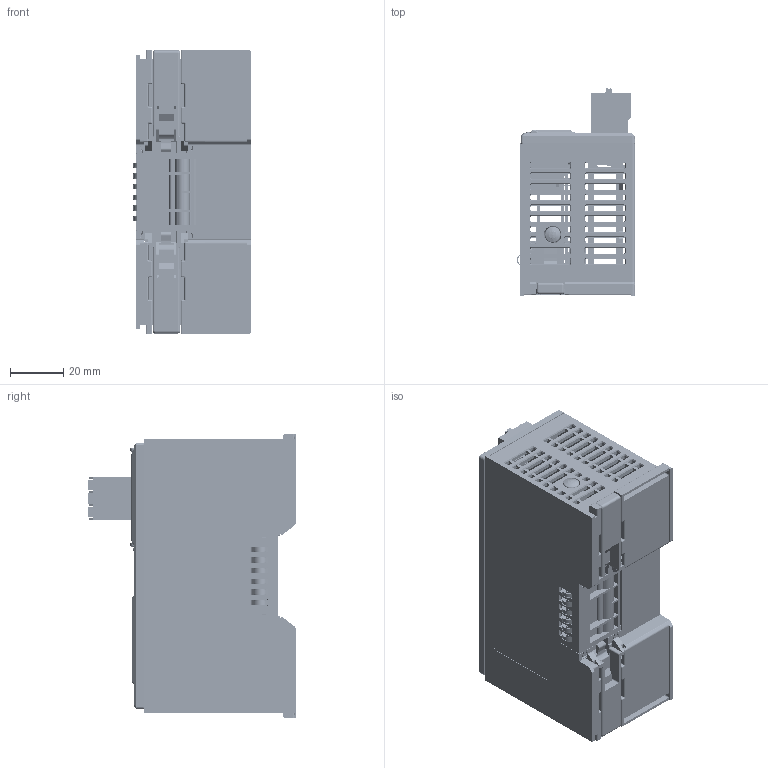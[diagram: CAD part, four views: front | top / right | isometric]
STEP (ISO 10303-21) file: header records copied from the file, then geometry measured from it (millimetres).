
FILE_DESCRIPTION((''),'2;1');
FILE_NAME('PRO_XB6S_DC_SW0002','2024-08-02T13:51:44',('董'),(''),'CREO PARAMETRIC BY PTC INC, 2020033','CREO PARAMETRIC BY PTC INC, 2020033','');
FILE_SCHEMA(('CONFIG_CONTROL_DESIGN'));
Products named in the file (1): PRO_XB6S_DC_SW0002
Bounding box: 44.35 x 78.25 x 106.4 mm (x, y, z)
Volume: 73746.8 mm3; surface area: 104566.3 mm2
Topology: 1 solids, 1 shells, 10129 faces, 29739 edges, 19161 vertices
Faces by surface type: plane 7318, cylinder 2129, bspline 426, torus 97, cone 95, sphere 64
Entity records: 358786 total; most frequent: CARTESIAN_POINT 91991, ORIENTED_EDGE 59382, DIRECTION 50239, EDGE_CURVE 29691, VECTOR 23805, LINE 23805, VERTEX_POINT 19161, AXIS2_PLACEMENT_3D 13217
